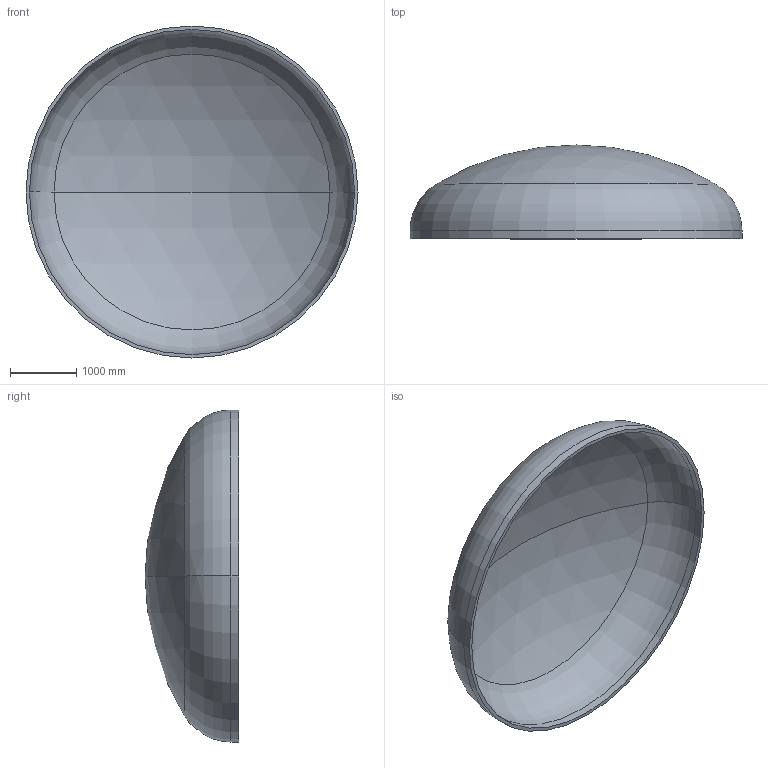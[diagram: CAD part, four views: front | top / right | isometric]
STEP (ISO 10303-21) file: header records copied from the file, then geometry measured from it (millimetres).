
FILE_DESCRIPTION (( 'STEP AP203' ), '1' );
FILE_NAME ('DIN 28013 Korbbogenform_-_Boden DIN 28013 - 5000 x 120 - I - s=52.step', '2016-07-02T00:36:20', ( '' ), ( '' ), 'SwSTEP 2.0', 'SolidWorks 2013', '' );
FILE_SCHEMA (( 'CONFIG_CONTROL_DESIGN' ));
Length unit declared in the file: millimetre
Products named in the file (1): DIN 28013 Korbbogenform_-_Boden DIN 28013 - 5000 x 120 - I - s=52
Bounding box: 5000 x 1412.07 x 5000 mm (x, y, z)
Volume: 1491777164.4 mm3; surface area: 58190005.7 mm2
Topology: 1 solids, 1 shells, 13 faces, 24 edges, 14 vertices
Faces by surface type: torus 4, cylinder 4, sphere 4, plane 1
Entity records: 407 total; most frequent: DIRECTION 72, CARTESIAN_POINT 52, ORIENTED_EDGE 48, AXIS2_PLACEMENT_3D 34, EDGE_CURVE 24, CIRCLE 20, VERTEX_POINT 14, EDGE_LOOP 14
